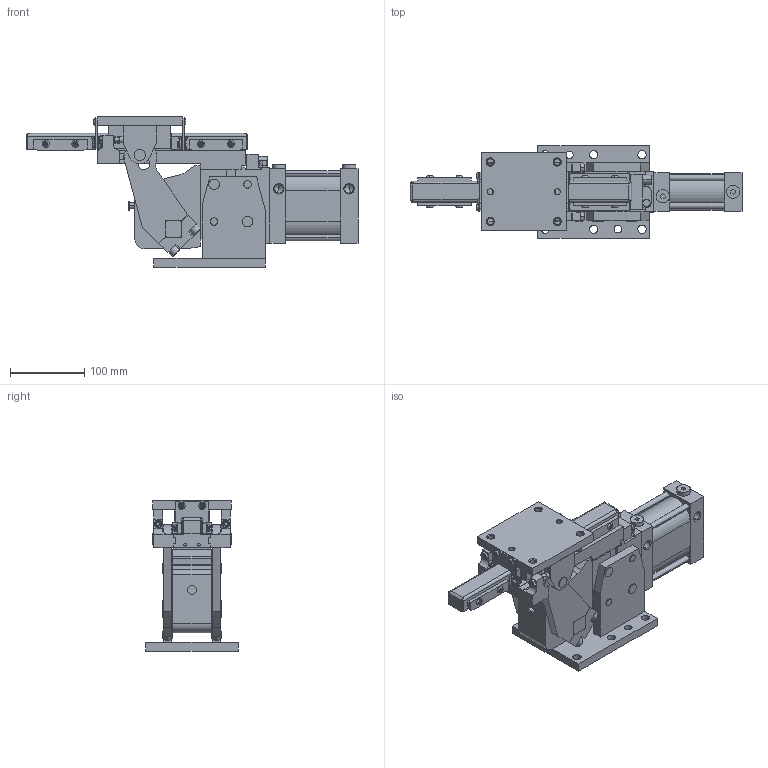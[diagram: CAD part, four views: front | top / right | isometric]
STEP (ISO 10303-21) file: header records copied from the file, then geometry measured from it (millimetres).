
FILE_DESCRIPTION (( 'STEP AP214' ), '1' );
FILE_NAME ('slcp63_90_xx_f_s1.STEP', '2019-09-19T12:52:08', ( '' ), ( '' ), 'SwSTEP 2.0', 'SolidWorks 2019', '' );
FILE_SCHEMA (( 'AUTOMOTIVE_DESIGN' ));
Length unit declared in the file: millimetre
Products named in the file (10): staffa_reazione_destra_slcp63_dx; slcp63_90_xx_x_x; staffa_reazione_sinistra_slcp63_sx; tappo cil G1_4 din908_rondella rame; riparo_binario_ant_slcp63; slcp63_90_xx_f_s1; leva_slcp63; piastra_superiore_slcp63; riparo_binario_post_slcp63; blocchetto_VEP_0
Assembly tree (10 placements, depth 2):
  slcp63_90_xx_f_s1
    slcp63_90_xx_x_x
    piastra_superiore_slcp63
    leva_slcp63
    blocchetto_VEP_0
    staffa_reazione_destra_slcp63_dx
    staffa_reazione_sinistra_slcp63_sx
    tappo cil G1_4 din908_rondella rame  x2
    riparo_binario_ant_slcp63
    riparo_binario_post_slcp63
Bounding box: 446.5 x 125 x 202.5 mm (x, y, z)
Volume: 2742835.3 mm3; surface area: 407517 mm2
Topology: 49 solids, 63 shells, 1734 faces, 4229 edges, 2613 vertices
Faces by surface type: plane 779, cylinder 467, cone 440, torus 48
Entity records: 63016 total; most frequent: CARTESIAN_POINT 10233, DIRECTION 8741, ORIENTED_EDGE 8214, EDGE_CURVE 4107, AXIS2_PLACEMENT_3D 3213, VERTEX_POINT 2593, VECTOR 2315, LINE 2315
